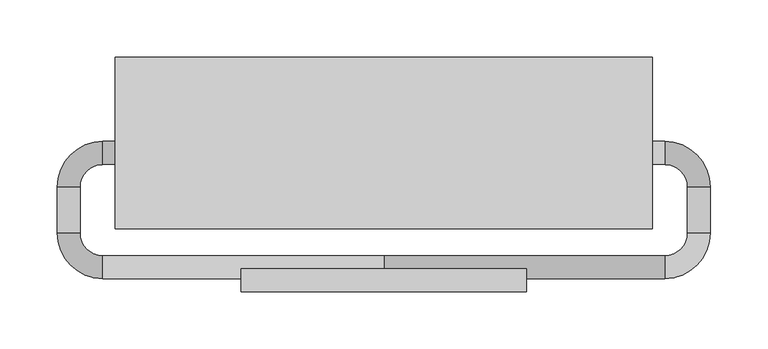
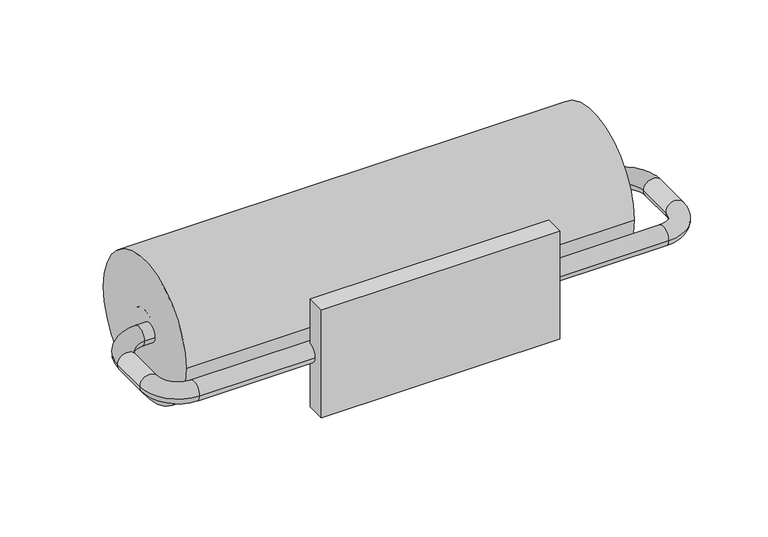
"""IFC4 building model written with IfcOpenShell, lengths in millimetres: proxy geometry, BIMHealth-Paper_Towel_Roll-LOD2A-v1 : BIMHealth-Paper_Towel_Roll-LOD2A-v1."""

from ifc_helpers import new_model, si_unit, point, frame, frame_2d, origin, place, context, project, spatial, polyline, circle_curve, ellipse_curve, trimmed, segment, composite_curve, outline, extrude, source, transform, mapped, element, save
from ifc_brep_helpers import plane_surface, cylinder_surface, revolved_surface, advanced_brep


def generic_models_8c7842fc(model_context):
    return source(origin(), model_context, "Body", "SolidModel", [
        advanced_brep(
        [(0.0, -18.6824089, 1200.0), (0.0, 1.3175911, 1200.0), (-245.7596123, 1.3175911, 1200.0), (-245.7596123, -18.6824089, 1200.0), (-265.7596123, 21.3175911, 1200.0), (-265.7596123, 61.3175911, 1200.0), (-285.7596123, 61.3175911, 1200.0), (-285.7596123, 21.3175911, 1200.0), (-195.0, 101.3175911, 1200.0), (-195.0, 81.3175911, 1200.0), (-245.7596123, 101.3175911, 1200.0), (-245.7596123, 81.3175911, 1200.0), (245.7596123, -18.6824089, 1200.0), (245.7596123, 1.3175911, 1200.0), (285.7596123, 21.3175911, 1200.0), (285.7596123, 61.3175911, 1200.0), (265.7596123, 61.3175911, 1200.0), (265.7596123, 21.3175911, 1200.0), (195.0, 101.3175911, 1200.0), (195.0, 81.3175911, 1200.0), (245.7596123, 81.3175911, 1200.0), (245.7596123, 101.3175911, 1200.0)],
        [
            (0, 1, circle_curve(frame((0.0, -8.6824089, 1200.0), z_axis=(-1.0, 0.0, 0.0), x_axis=(0.0, 1.0, 0.0)), 10.0)),
            (1, 2),
            (2, 3, circle_curve(frame((-245.7596123, -8.6824089, 1200.0), z_axis=(1.0, 0.0, 0.0), x_axis=(0.0, 1.0, 0.0)), 10.0)),
            (3, 0),
            (3, 2, circle_curve(frame((-245.7596123, -8.6824089, 1200.0), z_axis=(1.0, 0.0, 0.0), x_axis=(0.0, 1.0, 0.0)), 10.0)),
            (1, 0, circle_curve(frame((0.0, -8.6824089, 1200.0), z_axis=(-1.0, 0.0, 0.0), x_axis=(0.0, 1.0, 0.0)), 10.0)),
            (4, 5),
            (5, 6, circle_curve(frame((-275.7596123, 61.3175911, 1200.0), z_axis=(0.0, -1.0, 0.0), x_axis=(1.0, 0.0, 0.0)), 10.0)),
            (6, 7),
            (7, 4, circle_curve(frame((-275.7596123, 21.3175911, 1200.0), z_axis=(0.0, 1.0, 0.0), x_axis=(1.0, 0.0, 0.0)), 10.0)),
            (6, 5, circle_curve(frame((-275.7596123, 61.3175911, 1200.0), z_axis=(0.0, -1.0, 0.0), x_axis=(1.0, 0.0, 0.0)), 10.0)),
            (4, 7, circle_curve(frame((-275.7596123, 21.3175911, 1200.0), z_axis=(0.0, 1.0, 0.0), x_axis=(1.0, 0.0, 0.0)), 10.0)),
            (8, 9, circle_curve(frame((-195.0, 91.3175911, 1200.0), z_axis=(1.0, 0.0, 0.0), x_axis=(0.0, -1.0, 0.0)), 10.0)),
            (9, 8, circle_curve(frame((-195.0, 91.3175911, 1200.0), z_axis=(1.0, 0.0, 0.0), x_axis=(0.0, -1.0, 0.0)), 10.0)),
            (8, 10),
            (10, 11, circle_curve(frame((-245.7596123, 91.3175911, 1200.0), z_axis=(1.0, 0.0, 0.0), x_axis=(0.0, -1.0, 0.0)), 10.0)),
            (11, 9),
            (11, 10, circle_curve(frame((-245.7596123, 91.3175911, 1200.0), z_axis=(1.0, 0.0, 0.0), x_axis=(0.0, -1.0, 0.0)), 10.0)),
            (2, 4, circle_curve(frame((-245.7596123, 21.3175911, 1200.0), z_axis=(0.0, 0.0, -1.0), x_axis=(0.0, -1.0, 0.0)), 20.0)),
            (7, 3, circle_curve(frame((-245.7596123, 21.3175911, 1200.0), z_axis=(0.0, 0.0, 1.0), x_axis=(0.0, -1.0, 0.0)), 40.0)),
            (5, 11, circle_curve(frame((-245.7596123, 61.3175911, 1200.0), z_axis=(0.0, 0.0, -1.0), x_axis=(-1.0, 0.0, 0.0)), 20.0)),
            (10, 6, circle_curve(frame((-245.7596123, 61.3175911, 1200.0), z_axis=(0.0, 0.0, 1.0), x_axis=(-1.0, 0.0, 0.0)), 40.0)),
            (0, 12),
            (12, 13, circle_curve(frame((245.7596123, -8.6824089, 1200.0), z_axis=(-1.0, 0.0, 0.0), x_axis=(0.0, 1.0, 0.0)), 10.0)),
            (13, 1),
            (13, 12, circle_curve(frame((245.7596123, -8.6824089, 1200.0), z_axis=(-1.0, 0.0, 0.0), x_axis=(0.0, 1.0, 0.0)), 10.0)),
            (14, 15),
            (15, 16, circle_curve(frame((275.7596123, 61.3175911, 1200.0), z_axis=(0.0, -1.0, 0.0), x_axis=(-1.0, 0.0, 0.0)), 10.0)),
            (16, 17),
            (17, 14, circle_curve(frame((275.7596123, 21.3175911, 1200.0), z_axis=(0.0, 1.0, 0.0), x_axis=(-1.0, 0.0, 0.0)), 10.0)),
            (16, 15, circle_curve(frame((275.7596123, 61.3175911, 1200.0), z_axis=(0.0, -1.0, 0.0), x_axis=(-1.0, 0.0, 0.0)), 10.0)),
            (14, 17, circle_curve(frame((275.7596123, 21.3175911, 1200.0), z_axis=(0.0, 1.0, 0.0), x_axis=(-1.0, 0.0, 0.0)), 10.0)),
            (18, 19, circle_curve(frame((195.0, 91.3175911, 1200.0), z_axis=(-1.0, 0.0, 0.0), x_axis=(0.0, -1.0, 0.0)), 10.0)),
            (19, 18, circle_curve(frame((195.0, 91.3175911, 1200.0), z_axis=(-1.0, 0.0, 0.0), x_axis=(0.0, -1.0, 0.0)), 10.0)),
            (19, 20),
            (20, 21, circle_curve(frame((245.7596123, 91.3175911, 1200.0), z_axis=(-1.0, 0.0, 0.0), x_axis=(0.0, -1.0, 0.0)), 10.0)),
            (21, 18),
            (21, 20, circle_curve(frame((245.7596123, 91.3175911, 1200.0), z_axis=(-1.0, 0.0, 0.0), x_axis=(0.0, -1.0, 0.0)), 10.0)),
            (12, 14, circle_curve(frame((245.7596123, 21.3175911, 1200.0), z_axis=(0.0, 0.0, 1.0), x_axis=(0.0, -1.0, 0.0)), 40.0)),
            (17, 13, circle_curve(frame((245.7596123, 21.3175911, 1200.0), z_axis=(0.0, 0.0, -1.0), x_axis=(0.0, -1.0, 0.0)), 20.0)),
            (15, 21, circle_curve(frame((245.7596123, 61.3175911, 1200.0), z_axis=(0.0, 0.0, 1.0), x_axis=(1.0, 0.0, 0.0)), 40.0)),
            (20, 16, circle_curve(frame((245.7596123, 61.3175911, 1200.0), z_axis=(0.0, 0.0, -1.0), x_axis=(1.0, 0.0, 0.0)), 20.0)),
        ],
        [
            cylinder_surface(frame((0.0, -8.6824089, 1200.0), z_axis=(1.0, 0.0, 0.0), x_axis=(0.0, 1.0, 0.0)), 10.0),
            cylinder_surface(frame((-275.7596123, 21.3175911, 1200.0), z_axis=(0.0, -1.0, 0.0), x_axis=(1.0, 0.0, 0.0)), 10.0),
            plane_surface(frame((-195.0, 91.3175911, 0.0), z_axis=(1.0, 0.0, 0.0), x_axis=(0.0, 0.0, 1.0))),
            cylinder_surface(frame((-245.7596123, 91.3175911, 1200.0), z_axis=(-1.0, 0.0, 0.0), x_axis=(0.0, -1.0, 0.0)), 10.0),
            revolved_surface(trimmed(ellipse_curve(frame((-245.7596123, -8.6824089, 1200.0), z_axis=(-1.0, 0.0, 0.0), x_axis=(0.0, 1.0, 0.0)), 10.0, 10.0), [point((-245.7596123, -18.6824089, 1200.0))], [point((-245.7596123, 1.3175911, 1200.0))], True, "CARTESIAN"), (-245.7596123, 21.3175911, 0.0), (0.0, 0.0, 1.0)),
            revolved_surface(trimmed(ellipse_curve(frame((-245.7596123, -8.6824089, 1200.0), z_axis=(-1.0, 0.0, 0.0), x_axis=(0.0, 1.0, 0.0)), 10.0, 10.0), [point((-245.7596123, 1.3175911, 1200.0))], [point((-245.7596123, -18.6824089, 1200.0))], True, "CARTESIAN"), (-245.7596123, 21.3175911, 0.0), (0.0, 0.0, 1.0)),
            revolved_surface(trimmed(ellipse_curve(frame((-275.7596123, 61.3175911, 1200.0), z_axis=(0.0, 1.0, 0.0), x_axis=(1.0, 0.0, 0.0)), 10.0, 10.0), [point((-285.7596123, 61.3175911, 1200.0))], [point((-265.7596123, 61.3175911, 1200.0))], True, "CARTESIAN"), (-245.7596123, 61.3175911, 0.0), (0.0, 0.0, 1.0)),
            revolved_surface(trimmed(ellipse_curve(frame((-275.7596123, 61.3175911, 1200.0), z_axis=(0.0, 1.0, 0.0), x_axis=(1.0, 0.0, 0.0)), 10.0, 10.0), [point((-265.7596123, 61.3175911, 1200.0))], [point((-285.7596123, 61.3175911, 1200.0))], True, "CARTESIAN"), (-245.7596123, 61.3175911, 0.0), (0.0, 0.0, 1.0)),
            cylinder_surface(frame((0.0, -8.6824089, 1200.0), z_axis=(-1.0, 0.0, 0.0), x_axis=(0.0, 1.0, 0.0)), 10.0),
            cylinder_surface(frame((275.7596123, 21.3175911, 1200.0), z_axis=(0.0, -1.0, 0.0), x_axis=(-1.0, 0.0, 0.0)), 10.0),
            plane_surface(frame((195.0, 91.3175911, 0.0), z_axis=(-1.0, 0.0, 0.0), x_axis=(0.0, 0.0, 1.0))),
            cylinder_surface(frame((245.7596123, 91.3175911, 1200.0), z_axis=(1.0, 0.0, 0.0), x_axis=(0.0, -1.0, 0.0)), 10.0),
            revolved_surface(trimmed(ellipse_curve(frame((245.7596123, -8.6824089, 1200.0), z_axis=(1.0, 0.0, 0.0), x_axis=(0.0, 1.0, 0.0)), 10.0, 10.0), [point((245.7596123, 1.3175911, 1200.0))], [point((245.7596123, -18.6824089, 1200.0))], True, "CARTESIAN"), (245.7596123, 21.3175911, 0.0), (0.0, 0.0, -1.0)),
            revolved_surface(trimmed(ellipse_curve(frame((245.7596123, -8.6824089, 1200.0), z_axis=(1.0, 0.0, 0.0), x_axis=(0.0, 1.0, 0.0)), 10.0, 10.0), [point((245.7596123, -18.6824089, 1200.0))], [point((245.7596123, 1.3175911, 1200.0))], True, "CARTESIAN"), (245.7596123, 21.3175911, 0.0), (0.0, 0.0, -1.0)),
            revolved_surface(trimmed(ellipse_curve(frame((275.7596123, 61.3175911, 1200.0), z_axis=(0.0, 1.0, 0.0), x_axis=(-1.0, 0.0, 0.0)), 10.0, 10.0), [point((265.7596123, 61.3175911, 1200.0))], [point((285.7596123, 61.3175911, 1200.0))], True, "CARTESIAN"), (245.7596123, 61.3175911, 0.0), (0.0, 0.0, -1.0)),
            revolved_surface(trimmed(ellipse_curve(frame((275.7596123, 61.3175911, 1200.0), z_axis=(0.0, 1.0, 0.0), x_axis=(-1.0, 0.0, 0.0)), 10.0, 10.0), [point((285.7596123, 61.3175911, 1200.0))], [point((265.7596123, 61.3175911, 1200.0))], True, "CARTESIAN"), (245.7596123, 61.3175911, 0.0), (0.0, 0.0, -1.0)),
        ],
        [
            (0, [[1, 2, 3, 4]]),
            (0, [[5, -2, 6, -4]]),
            (1, [[7, 8, 9, 10]]),
            (1, [[11, -7, 12, -9]]),
            (2, [[13, 14]]),
            (3, [[15, 16, 17, -13]]),
            (3, [[-17, 18, -15, -14]]),
            (4, [[19, -10, 20, -3]]),
            (5, [[-20, -12, -19, -5]]),
            (6, [[21, -16, 22, -8]]),
            (7, [[-22, -18, -21, -11]]),
            (8, [[-1, 23, 24, 25]]),
            (8, [[26, -23, -6, -25]]),
            (9, [[27, 28, 29, 30]]),
            (9, [[31, -27, 32, -29]]),
            (10, [[33, 34]]),
            (11, [[35, 36, 37, -34]]),
            (11, [[-37, 38, -35, -33]]),
            (12, [[39, -30, 40, -24]]),
            (13, [[-40, -32, -39, -26]]),
            (14, [[41, -36, 42, -28]]),
            (15, [[-42, -38, -41, -31]]),
        ],
    ),
        extrude(outline(polyline([(-125.0, -10.0), (125.0, -10.0), (125.0, -30.0), (-125.0, -30.0), (-125.0, -10.0)])), frame((0.0, 0.0, 1140.0), z_axis=(0.0, 0.0, 1.0), x_axis=(1.0, 0.0, 0.0)), (0.0, 0.0, 1.0), 120.0),
        extrude(outline(composite_curve([segment(trimmed(circle_curve(frame_2d((100.0, 1200.0)), 75.0), [point((25.0, 1200.0))], [point((175.0, 1200.0))], False, "CARTESIAN"), True, "CONTINUOUS"), segment(trimmed(circle_curve(frame_2d((100.0, 1200.0)), 75.0), [point((175.0, 1200.0))], [point((25.0, 1200.0))], False, "CARTESIAN"), True, "CONTINUOUS")], self_intersect=False)), frame((-235.0, 0.0, 0.0), z_axis=(1.0, 0.0, 0.0), x_axis=(0.0, 1.0, 0.0)), (0.0, 0.0, 1.0), 470.0),
        extrude(outline(composite_curve([segment(trimmed(circle_curve(frame_2d((100.0, 1200.0)), 20.0), [point((80.0, 1200.0))], [point((120.0, 1200.0))], False, "CARTESIAN"), True, "CONTINUOUS"), segment(trimmed(circle_curve(frame_2d((100.0, 1200.0)), 20.0), [point((120.0, 1200.0))], [point((80.0, 1200.0))], False, "CARTESIAN"), True, "CONTINUOUS")], self_intersect=False)), frame((-235.0, 0.0, 0.0), z_axis=(1.0, 0.0, 0.0), x_axis=(0.0, 1.0, 0.0)), (0.0, 0.0, 1.0), 470.0),
    ])


if __name__ == "__main__":
    model = new_model("IFC4")
    model_context = context("Model", 3, world=origin())
    ifc_project = project(units=[si_unit("LENGTHUNIT", "METRE", prefix="MILLI")], contexts=[model_context])
    site = spatial("IfcSite", under=ifc_project)
    building = spatial("IfcBuilding", under=site)
    placement = place(None, origin())
    generic_models_shape = generic_models_8c7842fc(model_context)
    element("IfcBuildingElementProxy", 1, Name="BIMHealth-Paper_Towel_Roll-LOD2A-v1 : BIMHealth-Paper_Towel_Roll-LOD2A-v1", ObjectType="BIMHealth-Paper_Towel_Roll-LOD2A-v1 : BIMHealth-Paper_Towel_Roll-LOD2A-v1", at=placement, inside=building, context=model_context, shape_type="MappedRepresentation", body=[
        mapped(generic_models_shape, transform((0.0, 0.0, 0.0), x_axis=(1.0, 0.0, 0.0), y_axis=(0.0, 1.0, 0.0), z_axis=(0.0, 0.0, 1.0))),
    ])
    save(model, "model.ifc")
